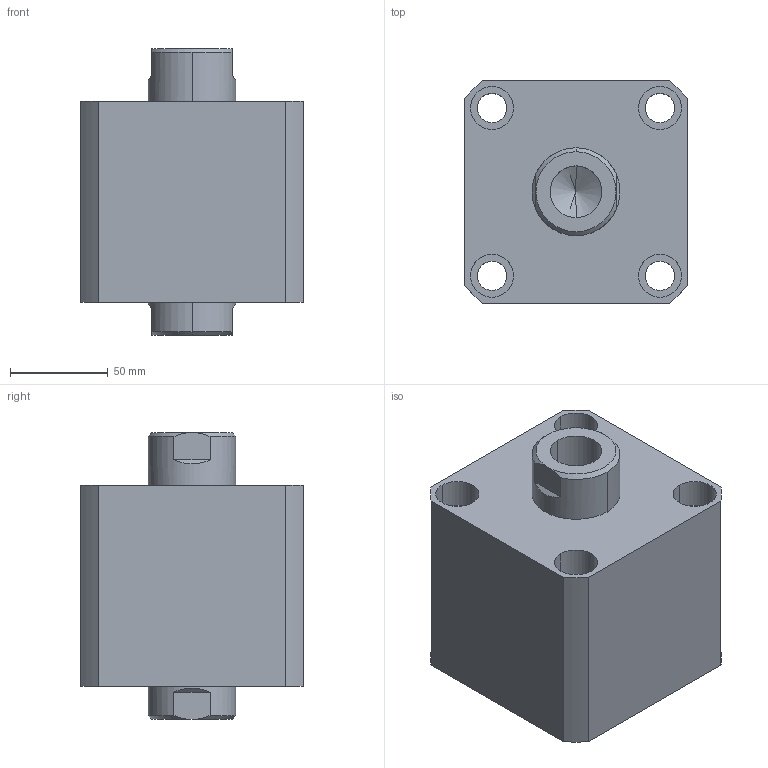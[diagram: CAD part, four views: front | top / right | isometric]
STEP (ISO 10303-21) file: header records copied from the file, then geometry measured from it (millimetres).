
FILE_DESCRIPTION (( 'STEP AP214' ), '1' );
FILE_NAME ('chtb-sw80x10n_asm.STEP', '2018-05-28T00:44:13', ( 'Windows' ), ( 'Microsoft' ), 'SwSTEP 2.0', 'SolidWorks 2015', '' );
FILE_SCHEMA (( 'AUTOMOTIVE_DESIGN' ));
Length unit declared in the file: millimetre
Products named in the file (4): chtb-sw80x10n_asm; CHTB-SW80X10NBT; CHTB-SD80X10NHSG; CHTB-SD80QG
Assembly tree (3 placements, depth 2):
  chtb-sw80x10n_asm
    CHTB-SD80QG
    CHTB-SD80X10NHSG
    CHTB-SW80X10NBT
Bounding box: 114 x 114 x 147 mm (x, y, z)
Volume: 1195599 mm3; surface area: 181313 mm2
Topology: 3 solids, 3 shells, 208 faces, 550 edges, 365 vertices
Faces by surface type: cylinder 109, plane 42, cone 25, torus 18, bspline 14
Entity records: 15645 total; most frequent: CARTESIAN_POINT 10539, ORIENTED_EDGE 1084, DIRECTION 970, EDGE_CURVE 542, AXIS2_PLACEMENT_3D 407, VERTEX_POINT 365, EDGE_LOOP 249, ADVANCED_FACE 208
